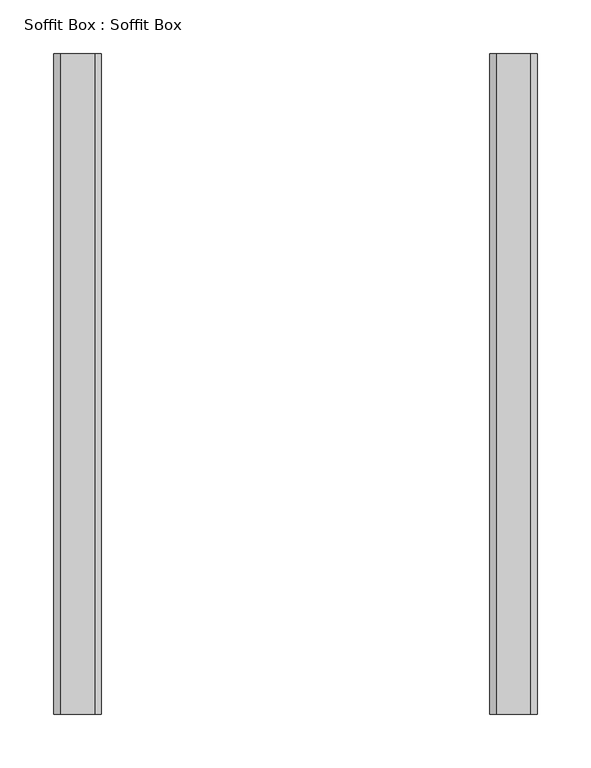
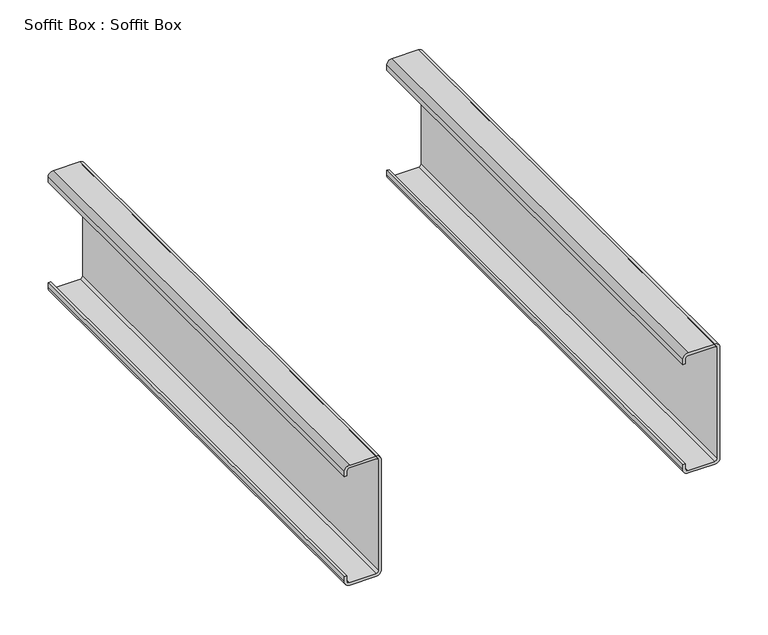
"""IFC4 building model written with IfcOpenShell, lengths in millimetres: proxy geometry, Soffit Box : Soffit Box."""

from ifc_helpers import new_model, si_unit, point, frame, frame_2d, origin, place, context, project, spatial, polyline, circle_curve, trimmed, segment, composite_curve, outline, extrude, source, transform, mapped, element, save


def soffit_box_soffit_box_70e22adb(model_context):
    return source(origin(), model_context, "Body", "SweptSolid", [
        extrude(outline(composite_curve([segment(polyline([(155.575, 26489.1726773), (155.575, 26492.3526773), (162.3429713, 26492.3526773)]), True, "CONTINUOUS"), segment(trimmed(circle_curve(frame_2d((161.925, 26495.5226773)), 3.1974365), [point((162.3429713, 26492.3526773))], [point((165.095, 26495.104706))], True, "CARTESIAN"), True, "CONTINUOUS"), segment(polyline([(165.095, 26495.104706), (165.095, 26527.7406486)]), True, "CONTINUOUS"), segment(trimmed(circle_curve(frame_2d((161.925, 26527.3226773)), 3.1974365), [point((165.095, 26527.7406486))], [point((162.3429713, 26530.4926773))], True, "CARTESIAN"), True, "CONTINUOUS"), segment(polyline([(162.3429713, 26530.4926773), (21.8070287, 26530.4926773)]), True, "CONTINUOUS"), segment(trimmed(circle_curve(frame_2d((22.225, 26527.3226773)), 3.1974365), [point((21.8070287, 26530.4926773))], [point((19.055, 26527.7406486))], True, "CARTESIAN"), True, "CONTINUOUS"), segment(polyline([(19.055, 26527.7406486), (19.055, 26495.104706)]), True, "CONTINUOUS"), segment(trimmed(circle_curve(frame_2d((22.225, 26495.5226773)), 3.1974365), [point((19.055, 26495.104706))], [point((21.8070287, 26492.3526773))], True, "CARTESIAN"), True, "CONTINUOUS"), segment(polyline([(21.8070287, 26492.3526773), (28.575, 26492.3526773), (28.575, 26489.1726773), (22.225, 26489.1726773)]), True, "CONTINUOUS"), segment(trimmed(circle_curve(frame_2d((22.225, 26495.5226773)), 6.35), [point((22.225, 26489.1726773))], [point((15.875, 26495.5226773))], False, "CARTESIAN"), True, "CONTINUOUS"), segment(polyline([(15.875, 26495.5226773), (15.875, 26527.3226773)]), True, "CONTINUOUS"), segment(trimmed(circle_curve(frame_2d((22.225, 26527.3226773)), 6.35), [point((15.875, 26527.3226773))], [point((22.225, 26533.6726773))], False, "CARTESIAN"), True, "CONTINUOUS"), segment(polyline([(22.225, 26533.6726773), (161.925, 26533.6726773)]), True, "CONTINUOUS"), segment(trimmed(circle_curve(frame_2d((161.925, 26527.3226773)), 6.35), [point((161.925, 26533.6726773))], [point((168.275, 26527.3226773))], False, "CARTESIAN"), True, "CONTINUOUS"), segment(polyline([(168.275, 26527.3226773), (168.275, 26495.5226773)]), True, "CONTINUOUS"), segment(trimmed(circle_curve(frame_2d((161.925, 26495.5226773)), 6.35), [point((168.275, 26495.5226773))], [point((161.925, 26489.1726773))], False, "CARTESIAN"), True, "CONTINUOUS"), segment(polyline([(161.925, 26489.1726773), (155.575, 26489.1726773)]), True, "CONTINUOUS")], self_intersect=False)), frame((0.0, 808.6066297, 0.0), z_axis=(0.0, 1.0, 0.0), x_axis=(0.0, 0.0, 1.0)), (0.0, 0.0, 1.0), 615.95),
        extrude(outline(composite_curve([segment(polyline([(155.575, 26895.5726773), (155.575, 26898.7526773), (162.3429713, 26898.7526773)]), True, "CONTINUOUS"), segment(trimmed(circle_curve(frame_2d((161.925, 26901.9226773)), 3.1974365), [point((162.3429713, 26898.7526773))], [point((165.095, 26901.504706))], True, "CARTESIAN"), True, "CONTINUOUS"), segment(polyline([(165.095, 26901.504706), (165.095, 26934.1406486)]), True, "CONTINUOUS"), segment(trimmed(circle_curve(frame_2d((161.925, 26933.7226773)), 3.1974365), [point((165.095, 26934.1406486))], [point((162.3429713, 26936.8926773))], True, "CARTESIAN"), True, "CONTINUOUS"), segment(polyline([(162.3429713, 26936.8926773), (21.8070287, 26936.8926773)]), True, "CONTINUOUS"), segment(trimmed(circle_curve(frame_2d((22.225, 26933.7226773)), 3.1974365), [point((21.8070287, 26936.8926773))], [point((19.055, 26934.1406486))], True, "CARTESIAN"), True, "CONTINUOUS"), segment(polyline([(19.055, 26934.1406486), (19.055, 26901.504706)]), True, "CONTINUOUS"), segment(trimmed(circle_curve(frame_2d((22.225, 26901.9226773)), 3.1974365), [point((19.055, 26901.504706))], [point((21.8070287, 26898.7526773))], True, "CARTESIAN"), True, "CONTINUOUS"), segment(polyline([(21.8070287, 26898.7526773), (28.575, 26898.7526773), (28.575, 26895.5726773), (22.225, 26895.5726773)]), True, "CONTINUOUS"), segment(trimmed(circle_curve(frame_2d((22.225, 26901.9226773)), 6.35), [point((22.225, 26895.5726773))], [point((15.875, 26901.9226773))], False, "CARTESIAN"), True, "CONTINUOUS"), segment(polyline([(15.875, 26901.9226773), (15.875, 26933.7226773)]), True, "CONTINUOUS"), segment(trimmed(circle_curve(frame_2d((22.225, 26933.7226773)), 6.35), [point((15.875, 26933.7226773))], [point((22.225, 26940.0726773))], False, "CARTESIAN"), True, "CONTINUOUS"), segment(polyline([(22.225, 26940.0726773), (161.925, 26940.0726773)]), True, "CONTINUOUS"), segment(trimmed(circle_curve(frame_2d((161.925, 26933.7226773)), 6.35), [point((161.925, 26940.0726773))], [point((168.275, 26933.7226773))], False, "CARTESIAN"), True, "CONTINUOUS"), segment(polyline([(168.275, 26933.7226773), (168.275, 26901.9226773)]), True, "CONTINUOUS"), segment(trimmed(circle_curve(frame_2d((161.925, 26901.9226773)), 6.35), [point((168.275, 26901.9226773))], [point((161.925, 26895.5726773))], False, "CARTESIAN"), True, "CONTINUOUS"), segment(polyline([(161.925, 26895.5726773), (155.575, 26895.5726773)]), True, "CONTINUOUS")], self_intersect=False)), frame((0.0, 808.6066297, 0.0), z_axis=(0.0, 1.0, 0.0), x_axis=(0.0, 0.0, 1.0)), (0.0, 0.0, 1.0), 615.95),
    ])


if __name__ == "__main__":
    model = new_model("IFC4")
    model_context = context("Model", 3, world=origin())
    ifc_project = project(units=[si_unit("LENGTHUNIT", "METRE", prefix="MILLI")], contexts=[model_context])
    site = spatial("IfcSite", under=ifc_project)
    building = spatial("IfcBuilding", under=site)
    placement = place(None, origin())
    soffit_box_soffit_box_shape = soffit_box_soffit_box_70e22adb(model_context)
    element("IfcBuildingElementProxy", 1, Name="Soffit Box : Soffit Box", ObjectType="Soffit Box : Soffit Box", at=placement, inside=building, context=model_context, shape_type="MappedRepresentation", body=[
        mapped(soffit_box_soffit_box_shape, transform((0.0, 0.0, 0.0), x_axis=(1.0, 0.0, 0.0), y_axis=(0.0, 1.0, 0.0), z_axis=(0.0, 0.0, 1.0))),
    ])
    save(model, "model.ifc")
